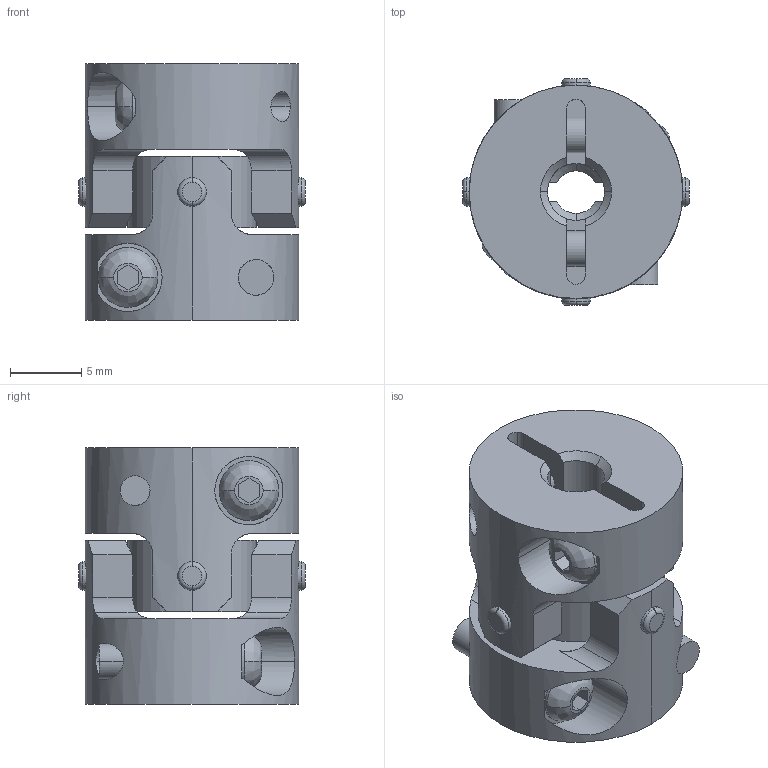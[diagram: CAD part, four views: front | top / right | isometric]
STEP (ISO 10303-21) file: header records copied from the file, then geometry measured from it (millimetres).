
FILE_DESCRIPTION((''),'2;1');
FILE_NAME('UA-15C-4×6.stp','2017-07-12T22:27:56',(''),(''),'AutoCAD STEP 2000i','AutoCAD 2000i',', , ');
FILE_SCHEMA(('CONFIG_CONTROL_DESIGN'));
Length unit declared in the file: millimetre
Products named in the file (7): UA-15C-3×6; 忣兜1; UA-1502-D06; BTN-M2.5; UA-1502-D03-1; UA-1502-D03; UA15-SEN
Assembly tree (8 placements, depth 3):
  UA-15C-3×6
    忣兜1
    UA-1502-D06
      BTN-M2.5
    UA-1502-D03-1
      BTN-M2.5
    UA-1502-D03
      BTN-M2.5
    UA15-SEN
Bounding box: 15.94 x 15.94 x 18 mm (x, y, z)
Volume: 2346 mm3; surface area: 2367.6 mm2
Topology: 1 solids, 1 shells, 210 faces, 558 edges, 364 vertices
Faces by surface type: cylinder 100, plane 78, cone 16, bspline 8, torus 8
Entity records: 8093 total; most frequent: CARTESIAN_POINT 2701, ORIENTED_EDGE 1116, DIRECTION 1084, EDGE_CURVE 558, AXIS2_PLACEMENT_3D 419, VERTEX_POINT 364, VECTOR 246, LINE 246
